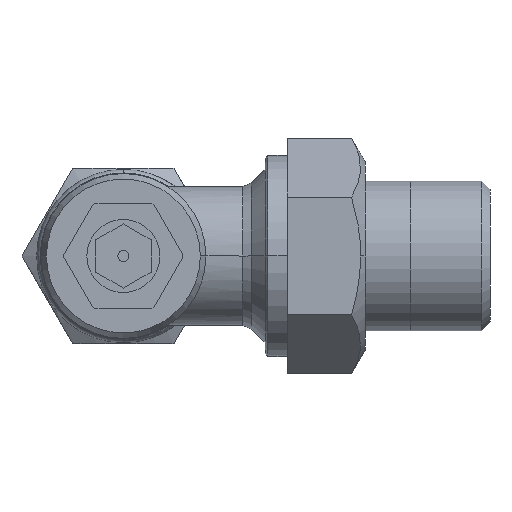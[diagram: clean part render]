
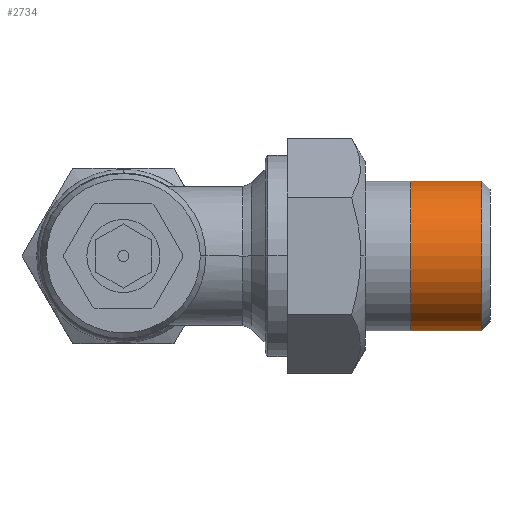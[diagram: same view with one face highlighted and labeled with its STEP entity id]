
A CAD part, front view. The second image highlights one B-rep face of the part: STEP entity #2734.
In plain terms, the highlighted cylindrical face has radius 13.45 mm (diameter 26.9 mm), a partial arc.
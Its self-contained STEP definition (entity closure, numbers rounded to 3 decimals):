
#2634=CARTESIAN_POINT('',(64.5,-14.73,13.45));
#2635=VERTEX_POINT('',#2634);
#2644=CARTESIAN_POINT('',(64.5,-14.73,-13.45));
#2645=VERTEX_POINT('',#2644);
#2646=CARTESIAN_POINT('',(64.5,-14.73,0.));
#2647=DIRECTION('',(1.0,0.0,0.0));
#2648=DIRECTION('',(0.0,0.0,1.0));
#2649=AXIS2_PLACEMENT_3D('',#2646,#2647,#2648);
#2650=CIRCLE('',#2649,13.45);
#2651=EDGE_CURVE('',#2635,#2645,#2650,.T.);
#2703=CARTESIAN_POINT('',(46.769,-14.73,0.));
#2704=DIRECTION('',(-1.0,0.,0.));
#2705=DIRECTION('',(0.0,0.0,-1.0));
#2706=AXIS2_PLACEMENT_3D('',#2703,#2704,#2705);
#2707=CYLINDRICAL_SURFACE('',#2706,13.45);
#2708=CARTESIAN_POINT('',(51.727,-14.73,-13.45));
#2709=VERTEX_POINT('',#2708);
#2710=CARTESIAN_POINT('',(64.5,-14.73,-13.45));
#2711=DIRECTION('',(-1.0,0.0,0.0));
#2712=VECTOR('',#2711,12.773);
#2713=LINE('',#2710,#2712);
#2714=EDGE_CURVE('',#2645,#2709,#2713,.T.);
#2715=ORIENTED_EDGE('',*,*,#2714,.F.);
#2716=ORIENTED_EDGE('',*,*,#2651,.F.);
#2717=CARTESIAN_POINT('',(51.727,-14.73,13.45));
#2718=VERTEX_POINT('',#2717);
#2719=CARTESIAN_POINT('',(51.727,-14.73,13.45));
#2720=DIRECTION('',(1.0,0.0,0.0));
#2721=VECTOR('',#2720,12.773);
#2722=LINE('',#2719,#2721);
#2723=EDGE_CURVE('',#2718,#2635,#2722,.T.);
#2724=ORIENTED_EDGE('',*,*,#2723,.F.);
#2725=CARTESIAN_POINT('',(51.727,-14.73,0.));
#2726=DIRECTION('',(-1.0,0.0,0.0));
#2727=DIRECTION('',(0.0,0.0,-1.0));
#2728=AXIS2_PLACEMENT_3D('',#2725,#2726,#2727);
#2729=CIRCLE('',#2728,13.45);
#2730=EDGE_CURVE('',#2709,#2718,#2729,.T.);
#2731=ORIENTED_EDGE('',*,*,#2730,.F.);
#2732=EDGE_LOOP('',(#2715,#2716,#2724,#2731));
#2733=FACE_OUTER_BOUND('',#2732,.T.);
#2734=ADVANCED_FACE('',(#2733),#2707,.T.);
